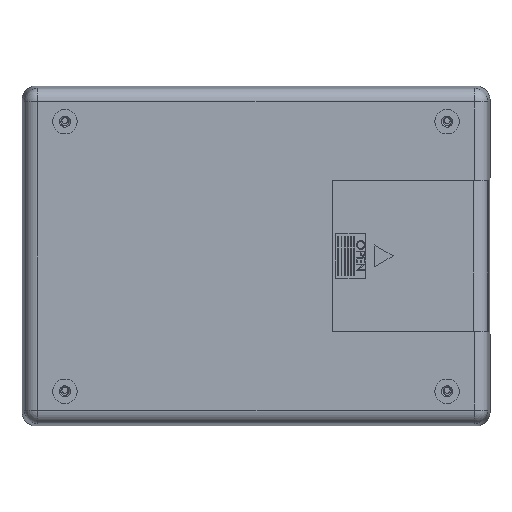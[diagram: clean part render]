
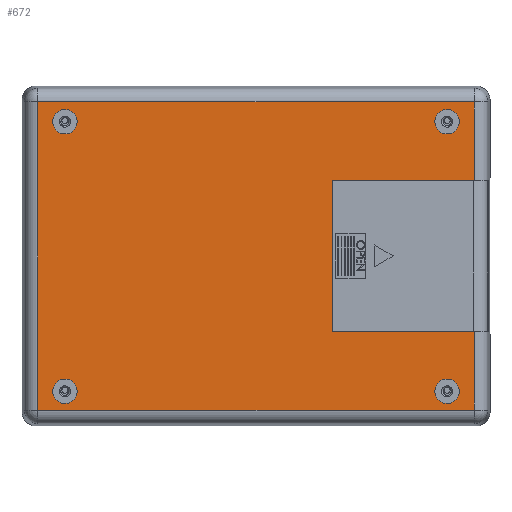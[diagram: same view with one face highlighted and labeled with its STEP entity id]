
A CAD part, front view. The second image highlights one B-rep face of the part: STEP entity #672.
In plain terms, the highlighted planar face has unit normal (0, -1, 0).
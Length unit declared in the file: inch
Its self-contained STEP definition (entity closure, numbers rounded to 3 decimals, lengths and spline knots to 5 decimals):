
#300 = AXIS2_PLACEMENT_3D ( 'NONE', #15563, #8932, #2281 ) ;
#449 = CARTESIAN_POINT ( 'NONE',  ( 3.47424, -0.885, -1.19882 ) ) ;
#672 = ADVANCED_FACE ( 'NONE', ( #38293, #11583, #20329, #36357, #2727 ), #7674, .F. ) ;
#1193 = DIRECTION ( 'NONE',  ( 0., 1., 0. ) ) ;
#1202 = ORIENTED_EDGE ( 'NONE', *, *, #7833, .F. ) ;
#1321 = VERTEX_POINT ( 'NONE', #4855 ) ;
#1627 = CARTESIAN_POINT ( 'NONE',  ( 3.8304, -0.885, 1.19882 ) ) ;
#1767 = VERTEX_POINT ( 'NONE', #13326 ) ;
#2150 = VERTEX_POINT ( 'NONE', #26273 ) ;
#2281 = DIRECTION ( 'NONE',  ( 0., 0., -1. ) ) ;
#2457 = VECTOR ( 'NONE', #18336, 39.37008 ) ;
#2727 = FACE_BOUND ( 'NONE', #12968, .T. ) ;
#3132 = VERTEX_POINT ( 'NONE', #4534 ) ;
#3980 = CARTESIAN_POINT ( 'NONE',  ( -3.46342, -0.885, 2.45424 ) ) ;
#4471 = CARTESIAN_POINT ( 'NONE',  ( 3.47424, -0.885, 2.45424 ) ) ;
#4534 = CARTESIAN_POINT ( 'NONE',  ( -3.044, -0.885, 1.944 ) ) ;
#4570 = VERTEX_POINT ( 'NONE', #34980 ) ;
#4855 = CARTESIAN_POINT ( 'NONE',  ( 1.21524, -0.885, -1.19882 ) ) ;
#5723 = VECTOR ( 'NONE', #35192, 39.37008 ) ;
#5879 = EDGE_CURVE ( 'NONE', #30403, #19900, #10703, .T. ) ;
#6100 = EDGE_CURVE ( 'NONE', #36907, #30783, #9092, .T. ) ;
#6339 = CARTESIAN_POINT ( 'NONE',  ( 3.47424, -0.885, 1.19882 ) ) ;
#6440 = EDGE_CURVE ( 'NONE', #3132, #2150, #12669, .T. ) ;
#7325 = DIRECTION ( 'NONE',  ( -1., 0., 0. ) ) ;
#7510 = EDGE_CURVE ( 'NONE', #41160, #35699, #11589, .T. ) ;
#7674 = PLANE ( 'NONE',  #30425 ) ;
#7741 = VECTOR ( 'NONE', #24947, 39.37008 ) ;
#7833 = EDGE_CURVE ( 'NONE', #35699, #41160, #26370, .T. ) ;
#8067 = LINE ( 'NONE', #3980, #15818 ) ;
#8071 = CARTESIAN_POINT ( 'NONE',  ( -3.044, -0.885, -2.156 ) ) ;
#8097 = ORIENTED_EDGE ( 'NONE', *, *, #15293, .T. ) ;
#8395 = ORIENTED_EDGE ( 'NONE', *, *, #6100, .T. ) ;
#8932 = DIRECTION ( 'NONE',  ( 0., -1., 0. ) ) ;
#9092 = LINE ( 'NONE', #27971, #26553 ) ;
#9188 = DIRECTION ( 'NONE',  ( 1., 0., 0. ) ) ;
#9491 = ORIENTED_EDGE ( 'NONE', *, *, #5879, .F. ) ;
#9538 = CIRCLE ( 'NONE', #21456, 0.195 ) ;
#10174 = CARTESIAN_POINT ( 'NONE',  ( 3.044, -0.885, 2.334 ) ) ;
#10351 = DIRECTION ( 'NONE',  ( 0., 0., -1. ) ) ;
#10449 = AXIS2_PLACEMENT_3D ( 'NONE', #31886, #35054, #38220 ) ;
#10581 = VECTOR ( 'NONE', #24670, 39.37008 ) ;
#10695 = CARTESIAN_POINT ( 'NONE',  ( -3.044, -0.885, -2.351 ) ) ;
#10703 = CIRCLE ( 'NONE', #10449, 0.195 ) ;
#10939 = AXIS2_PLACEMENT_3D ( 'NONE', #12442, #35040, #15737 ) ;
#11018 = CIRCLE ( 'NONE', #28044, 0.195 ) ;
#11307 = LINE ( 'NONE', #37534, #2457 ) ;
#11583 = FACE_BOUND ( 'NONE', #26020, .T. ) ;
#11589 = CIRCLE ( 'NONE', #300, 0.195 ) ;
#12016 = DIRECTION ( 'NONE',  ( 0., 0., -1. ) ) ;
#12442 = CARTESIAN_POINT ( 'NONE',  ( -3.044, -0.885, -2.156 ) ) ;
#12503 = DIRECTION ( 'NONE',  ( 0., 0., 1. ) ) ;
#12669 = CIRCLE ( 'NONE', #29857, 0.195 ) ;
#12968 = EDGE_LOOP ( 'NONE', ( #21919, #36768 ) ) ;
#13037 = EDGE_CURVE ( 'NONE', #2150, #3132, #17614, .T. ) ;
#13326 = CARTESIAN_POINT ( 'NONE',  ( -3.044, -0.885, -1.961 ) ) ;
#13638 = CARTESIAN_POINT ( 'NONE',  ( -3.044, -0.885, 2.139 ) ) ;
#14199 = AXIS2_PLACEMENT_3D ( 'NONE', #20263, #20971, #27509 ) ;
#14595 = LINE ( 'NONE', #35062, #5723 ) ;
#15293 = EDGE_CURVE ( 'NONE', #30783, #22821, #8067, .T. ) ;
#15479 = CARTESIAN_POINT ( 'NONE',  ( 3.044, -0.885, -2.351 ) ) ;
#15563 = CARTESIAN_POINT ( 'NONE',  ( 3.044, -0.885, -2.156 ) ) ;
#15690 = CARTESIAN_POINT ( 'NONE',  ( 1.21524, -0.885, -1.19882 ) ) ;
#15737 = DIRECTION ( 'NONE',  ( 0., 0., -1. ) ) ;
#15818 = VECTOR ( 'NONE', #7325, 39.37008 ) ;
#16104 = EDGE_CURVE ( 'NONE', #1767, #25360, #9538, .T. ) ;
#17614 = CIRCLE ( 'NONE', #29173, 0.195 ) ;
#18245 = DIRECTION ( 'NONE',  ( 0., -1., 0. ) ) ;
#18313 = LINE ( 'NONE', #1627, #10581 ) ;
#18336 = DIRECTION ( 'NONE',  ( 0., 0., 1. ) ) ;
#18412 = CARTESIAN_POINT ( 'NONE',  ( 1.21524, -0.885, 1.19882 ) ) ;
#19488 = CIRCLE ( 'NONE', #10939, 0.195 ) ;
#19900 = VERTEX_POINT ( 'NONE', #21662 ) ;
#20263 = CARTESIAN_POINT ( 'NONE',  ( 3.044, -0.885, -2.156 ) ) ;
#20329 = FACE_OUTER_BOUND ( 'NONE', #30287, .T. ) ;
#20356 = EDGE_CURVE ( 'NONE', #36914, #30654, #11307, .T. ) ;
#20971 = DIRECTION ( 'NONE',  ( 0., -1., 0. ) ) ;
#21207 = VERTEX_POINT ( 'NONE', #21406 ) ;
#21406 = CARTESIAN_POINT ( 'NONE',  ( 1.21524, -0.885, 1.19882 ) ) ;
#21456 = AXIS2_PLACEMENT_3D ( 'NONE', #8071, #30920, #12016 ) ;
#21662 = CARTESIAN_POINT ( 'NONE',  ( 3.044, -0.885, 1.944 ) ) ;
#21708 = DIRECTION ( 'NONE',  ( 0., 0., -1. ) ) ;
#21919 = ORIENTED_EDGE ( 'NONE', *, *, #40744, .F. ) ;
#22821 = VERTEX_POINT ( 'NONE', #31567 ) ;
#23649 = ORIENTED_EDGE ( 'NONE', *, *, #29455, .F. ) ;
#24180 = LINE ( 'NONE', #15690, #40054 ) ;
#24249 = LINE ( 'NONE', #28502, #7741 ) ;
#24670 = DIRECTION ( 'NONE',  ( -1., 0., 0. ) ) ;
#24940 = ORIENTED_EDGE ( 'NONE', *, *, #6440, .F. ) ;
#24947 = DIRECTION ( 'NONE',  ( 0., 0., -1. ) ) ;
#25360 = VERTEX_POINT ( 'NONE', #10695 ) ;
#25631 = EDGE_LOOP ( 'NONE', ( #24940, #36390 ) ) ;
#25956 = EDGE_CURVE ( 'NONE', #21207, #1321, #32947, .T. ) ;
#26020 = EDGE_LOOP ( 'NONE', ( #41043, #9491 ) ) ;
#26273 = CARTESIAN_POINT ( 'NONE',  ( -3.044, -0.885, 2.334 ) ) ;
#26370 = CIRCLE ( 'NONE', #14199, 0.195 ) ;
#26553 = VECTOR ( 'NONE', #12503, 39.37008 ) ;
#26575 = EDGE_CURVE ( 'NONE', #36907, #21207, #18313, .T. ) ;
#26594 = ORIENTED_EDGE ( 'NONE', *, *, #38919, .T. ) ;
#27374 = CARTESIAN_POINT ( 'NONE',  ( -3.7275, -0.885, 2.7075 ) ) ;
#27509 = DIRECTION ( 'NONE',  ( 0., 0., -1. ) ) ;
#27971 = CARTESIAN_POINT ( 'NONE',  ( 3.47424, -0.885, 2.44342 ) ) ;
#28044 = AXIS2_PLACEMENT_3D ( 'NONE', #37447, #18245, #40603 ) ;
#28182 = ORIENTED_EDGE ( 'NONE', *, *, #26575, .F. ) ;
#28502 = CARTESIAN_POINT ( 'NONE',  ( -3.47424, -0.885, -2.44342 ) ) ;
#29173 = AXIS2_PLACEMENT_3D ( 'NONE', #29812, #32976, #36181 ) ;
#29455 = EDGE_CURVE ( 'NONE', #1321, #30654, #24180, .T. ) ;
#29812 = CARTESIAN_POINT ( 'NONE',  ( -3.044, -0.885, 2.139 ) ) ;
#29857 = AXIS2_PLACEMENT_3D ( 'NONE', #13638, #33020, #10351 ) ;
#30287 = EDGE_LOOP ( 'NONE', ( #34216, #23649, #37799, #28182, #8395, #8097, #26594, #31221 ) ) ;
#30403 = VERTEX_POINT ( 'NONE', #10174 ) ;
#30425 = AXIS2_PLACEMENT_3D ( 'NONE', #27374, #1193, #40055 ) ;
#30654 = VERTEX_POINT ( 'NONE', #449 ) ;
#30783 = VERTEX_POINT ( 'NONE', #4471 ) ;
#30920 = DIRECTION ( 'NONE',  ( 0., -1., 0. ) ) ;
#31221 = ORIENTED_EDGE ( 'NONE', *, *, #33181, .T. ) ;
#31567 = CARTESIAN_POINT ( 'NONE',  ( -3.47424, -0.885, 2.45424 ) ) ;
#31886 = CARTESIAN_POINT ( 'NONE',  ( 3.044, -0.885, 2.139 ) ) ;
#32455 = CARTESIAN_POINT ( 'NONE',  ( 3.47424, -0.885, -2.45424 ) ) ;
#32938 = EDGE_CURVE ( 'NONE', #19900, #30403, #11018, .T. ) ;
#32947 = LINE ( 'NONE', #18412, #40378 ) ;
#32976 = DIRECTION ( 'NONE',  ( 0., -1., 0. ) ) ;
#33020 = DIRECTION ( 'NONE',  ( 0., -1., 0. ) ) ;
#33181 = EDGE_CURVE ( 'NONE', #4570, #36914, #14595, .T. ) ;
#34216 = ORIENTED_EDGE ( 'NONE', *, *, #20356, .T. ) ;
#34980 = CARTESIAN_POINT ( 'NONE',  ( -3.47424, -0.885, -2.45424 ) ) ;
#35040 = DIRECTION ( 'NONE',  ( 0., -1., 0. ) ) ;
#35054 = DIRECTION ( 'NONE',  ( 0., -1., 0. ) ) ;
#35062 = CARTESIAN_POINT ( 'NONE',  ( 3.46342, -0.885, -2.45424 ) ) ;
#35192 = DIRECTION ( 'NONE',  ( 1., 0., 0. ) ) ;
#35699 = VERTEX_POINT ( 'NONE', #15479 ) ;
#36181 = DIRECTION ( 'NONE',  ( 0., 0., -1. ) ) ;
#36357 = FACE_BOUND ( 'NONE', #25631, .T. ) ;
#36390 = ORIENTED_EDGE ( 'NONE', *, *, #13037, .F. ) ;
#36722 = CARTESIAN_POINT ( 'NONE',  ( 3.044, -0.885, -1.961 ) ) ;
#36768 = ORIENTED_EDGE ( 'NONE', *, *, #16104, .F. ) ;
#36907 = VERTEX_POINT ( 'NONE', #6339 ) ;
#36914 = VERTEX_POINT ( 'NONE', #32455 ) ;
#37447 = CARTESIAN_POINT ( 'NONE',  ( 3.044, -0.885, 2.139 ) ) ;
#37534 = CARTESIAN_POINT ( 'NONE',  ( 3.47424, -0.885, 2.44342 ) ) ;
#37670 = ORIENTED_EDGE ( 'NONE', *, *, #7510, .F. ) ;
#37799 = ORIENTED_EDGE ( 'NONE', *, *, #25956, .F. ) ;
#38220 = DIRECTION ( 'NONE',  ( 0., 0., -1. ) ) ;
#38293 = FACE_BOUND ( 'NONE', #41705, .T. ) ;
#38919 = EDGE_CURVE ( 'NONE', #22821, #4570, #24249, .T. ) ;
#40054 = VECTOR ( 'NONE', #9188, 39.37008 ) ;
#40055 = DIRECTION ( 'NONE',  ( 0., 0., 1. ) ) ;
#40378 = VECTOR ( 'NONE', #21708, 39.37008 ) ;
#40603 = DIRECTION ( 'NONE',  ( 0., 0., -1. ) ) ;
#40744 = EDGE_CURVE ( 'NONE', #25360, #1767, #19488, .T. ) ;
#41043 = ORIENTED_EDGE ( 'NONE', *, *, #32938, .F. ) ;
#41160 = VERTEX_POINT ( 'NONE', #36722 ) ;
#41705 = EDGE_LOOP ( 'NONE', ( #1202, #37670 ) ) ;
